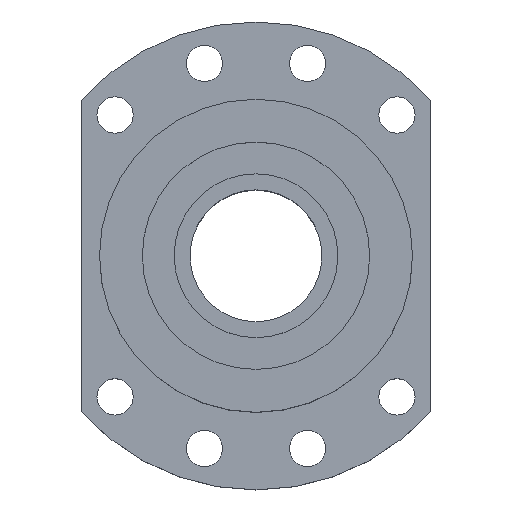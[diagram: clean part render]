
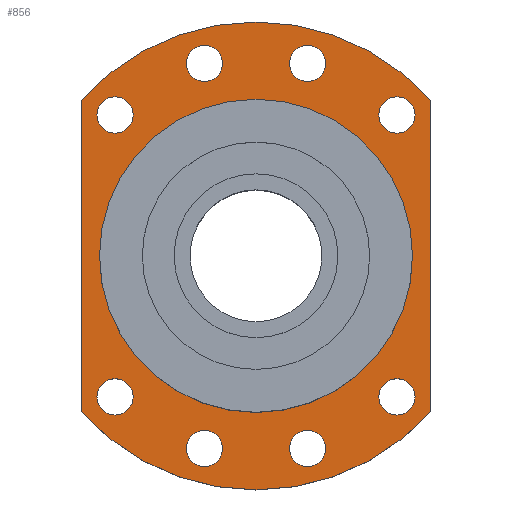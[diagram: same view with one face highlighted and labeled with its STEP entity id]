
A CAD part, top view. The second image highlights one B-rep face of the part: STEP entity #856.
In plain terms, the highlighted planar face has unit normal (0, 0, 1).
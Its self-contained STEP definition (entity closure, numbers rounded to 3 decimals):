
#74=LINE($,#1487,#106);
#75=LINE($,#1490,#107);
#106=VECTOR($,#1249,94.488);
#107=VECTOR($,#1252,94.488);
#164=FACE_BOUND($,#331,.T.);
#165=FACE_BOUND($,#332,.T.);
#166=FACE_BOUND($,#333,.T.);
#167=FACE_BOUND($,#334,.T.);
#168=FACE_BOUND($,#335,.T.);
#169=FACE_BOUND($,#336,.T.);
#170=FACE_BOUND($,#337,.T.);
#171=FACE_BOUND($,#338,.T.);
#172=FACE_BOUND($,#339,.T.);
#173=FACE_BOUND($,#340,.T.);
#331=EDGE_LOOP($,(#760));
#332=EDGE_LOOP($,(#761));
#333=EDGE_LOOP($,(#762));
#334=EDGE_LOOP($,(#763));
#335=EDGE_LOOP($,(#764));
#336=EDGE_LOOP($,(#765));
#337=EDGE_LOOP($,(#766));
#338=EDGE_LOOP($,(#767));
#339=EDGE_LOOP($,(#768));
#340=EDGE_LOOP($,(#769,#770,#771,#772));
#369=CIRCLE($,#916,5.5);
#373=CIRCLE($,#923,5.5);
#377=CIRCLE($,#930,5.5);
#381=CIRCLE($,#937,5.5);
#385=CIRCLE($,#944,5.5);
#389=CIRCLE($,#951,5.5);
#393=CIRCLE($,#958,5.5);
#397=CIRCLE($,#965,5.5);
#399=CIRCLE($,#968,47.5);
#403=CIRCLE($,#976,71.);
#404=CIRCLE($,#980,71.);
#445=VERTEX_POINT($,#1381);
#449=VERTEX_POINT($,#1392);
#453=VERTEX_POINT($,#1403);
#457=VERTEX_POINT($,#1414);
#461=VERTEX_POINT($,#1425);
#465=VERTEX_POINT($,#1436);
#469=VERTEX_POINT($,#1447);
#473=VERTEX_POINT($,#1458);
#475=VERTEX_POINT($,#1463);
#481=VERTEX_POINT($,#1479);
#482=VERTEX_POINT($,#1481);
#483=VERTEX_POINT($,#1485);
#484=VERTEX_POINT($,#1489);
#537=EDGE_CURVE($,#445,#445,#369,.T.);
#541=EDGE_CURVE($,#449,#449,#373,.T.);
#545=EDGE_CURVE($,#453,#453,#377,.T.);
#549=EDGE_CURVE($,#457,#457,#381,.T.);
#553=EDGE_CURVE($,#461,#461,#385,.T.);
#557=EDGE_CURVE($,#465,#465,#389,.T.);
#561=EDGE_CURVE($,#469,#469,#393,.T.);
#565=EDGE_CURVE($,#473,#473,#397,.T.);
#567=EDGE_CURVE($,#475,#475,#399,.T.);
#574=EDGE_CURVE($,#482,#481,#403,.T.);
#577=EDGE_CURVE($,#481,#483,#74,.T.);
#578=EDGE_CURVE($,#484,#482,#75,.T.);
#580=EDGE_CURVE($,#483,#484,#404,.T.);
#760=ORIENTED_EDGE($,*,*,#537,.T.);
#761=ORIENTED_EDGE($,*,*,#541,.T.);
#762=ORIENTED_EDGE($,*,*,#545,.T.);
#763=ORIENTED_EDGE($,*,*,#549,.T.);
#764=ORIENTED_EDGE($,*,*,#553,.T.);
#765=ORIENTED_EDGE($,*,*,#557,.T.);
#766=ORIENTED_EDGE($,*,*,#561,.T.);
#767=ORIENTED_EDGE($,*,*,#565,.T.);
#768=ORIENTED_EDGE($,*,*,#567,.T.);
#769=ORIENTED_EDGE($,*,*,#577,.T.);
#770=ORIENTED_EDGE($,*,*,#580,.T.);
#771=ORIENTED_EDGE($,*,*,#578,.T.);
#772=ORIENTED_EDGE($,*,*,#574,.T.);
#798=PLANE($,#981);
#856=ADVANCED_FACE($,(#164,#165,#166,#167,#168,#169,#170,#171,#172,#173),
#798,.T.);
#916=AXIS2_PLACEMENT_3D($,#1382,#1120,#1121);
#923=AXIS2_PLACEMENT_3D($,#1393,#1134,#1135);
#930=AXIS2_PLACEMENT_3D($,#1404,#1148,#1149);
#937=AXIS2_PLACEMENT_3D($,#1415,#1162,#1163);
#944=AXIS2_PLACEMENT_3D($,#1426,#1176,#1177);
#951=AXIS2_PLACEMENT_3D($,#1437,#1190,#1191);
#958=AXIS2_PLACEMENT_3D($,#1448,#1204,#1205);
#965=AXIS2_PLACEMENT_3D($,#1459,#1218,#1219);
#968=AXIS2_PLACEMENT_3D($,#1464,#1224,#1225);
#976=AXIS2_PLACEMENT_3D($,#1482,#1243,#1244);
#980=AXIS2_PLACEMENT_3D($,#1493,#1256,#1257);
#981=AXIS2_PLACEMENT_3D($,#1494,#1258,#1259);
#1120=DIRECTION('center_axis',(0.,0.,-1.));
#1121=DIRECTION('ref_axis',(-1.,0.,0.));
#1134=DIRECTION('center_axis',(0.,0.,-1.));
#1135=DIRECTION('ref_axis',(-1.,0.,0.));
#1148=DIRECTION('center_axis',(0.,0.,-1.));
#1149=DIRECTION('ref_axis',(-1.,0.,0.));
#1162=DIRECTION('center_axis',(0.,0.,-1.));
#1163=DIRECTION('ref_axis',(-1.,0.,0.));
#1176=DIRECTION('center_axis',(0.,0.,-1.));
#1177=DIRECTION('ref_axis',(-1.,0.,0.));
#1190=DIRECTION('center_axis',(0.,0.,-1.));
#1191=DIRECTION('ref_axis',(-1.,0.,0.));
#1204=DIRECTION('center_axis',(0.,0.,-1.));
#1205=DIRECTION('ref_axis',(-1.,0.,0.));
#1218=DIRECTION('center_axis',(0.,0.,-1.));
#1219=DIRECTION('ref_axis',(-1.,0.,0.));
#1224=DIRECTION('center_axis',(0.,0.,-1.));
#1225=DIRECTION('ref_axis',(-1.,0.,0.));
#1243=DIRECTION('center_axis',(0.,0.,1.));
#1244=DIRECTION('ref_axis',(0.746,0.665,0.));
#1249=DIRECTION($,(0.,-1.,0.));
#1252=DIRECTION($,(0.,1.,0.));
#1256=DIRECTION('center_axis',(0.,0.,1.));
#1257=DIRECTION('ref_axis',(-0.746,-0.665,0.));
#1258=DIRECTION('center_axis',(0.,0.,1.));
#1259=DIRECTION('ref_axis',(1.,0.,0.));
#1381=CARTESIAN_POINT('',(48.28,-42.78,19.));
#1382=CARTESIAN_POINT('Origin',(42.78,-42.78,19.));
#1392=CARTESIAN_POINT('',(-37.28,42.78,19.));
#1393=CARTESIAN_POINT('Origin',(-42.78,42.78,19.));
#1403=CARTESIAN_POINT('',(21.159,-58.439,19.));
#1404=CARTESIAN_POINT('Origin',(15.659,-58.439,19.));
#1414=CARTESIAN_POINT('',(21.159,58.439,19.));
#1415=CARTESIAN_POINT('Origin',(15.659,58.439,19.));
#1425=CARTESIAN_POINT('',(-10.159,58.439,19.));
#1426=CARTESIAN_POINT('Origin',(-15.659,58.439,19.));
#1436=CARTESIAN_POINT('',(-10.159,-58.439,19.));
#1437=CARTESIAN_POINT('Origin',(-15.659,-58.439,19.));
#1447=CARTESIAN_POINT('',(48.28,42.78,19.));
#1448=CARTESIAN_POINT('Origin',(42.78,42.78,19.));
#1458=CARTESIAN_POINT('',(-37.28,-42.78,19.));
#1459=CARTESIAN_POINT('Origin',(-42.78,-42.78,19.));
#1463=CARTESIAN_POINT('',(47.5,0.,19.));
#1464=CARTESIAN_POINT('Origin',(0.,0.,19.));
#1479=CARTESIAN_POINT('',(-53.,47.244,19.));
#1481=CARTESIAN_POINT('',(53.,47.244,19.));
#1482=CARTESIAN_POINT('Origin',(0.,0.,19.));
#1485=CARTESIAN_POINT('',(-53.,-47.244,19.));
#1487=CARTESIAN_POINT($,(-53.,47.244,19.));
#1489=CARTESIAN_POINT('',(53.,-47.244,19.));
#1490=CARTESIAN_POINT($,(53.,-47.244,19.));
#1493=CARTESIAN_POINT('Origin',(0.,0.,19.));
#1494=CARTESIAN_POINT('Origin',(0.,0.,
19.));
